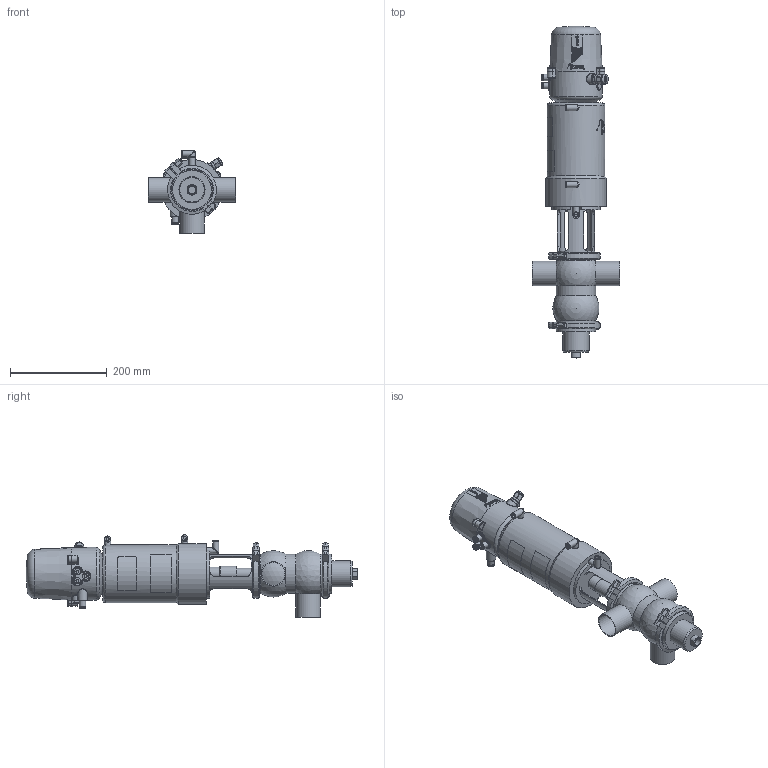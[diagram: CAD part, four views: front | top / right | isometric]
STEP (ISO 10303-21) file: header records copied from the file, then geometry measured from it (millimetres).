
FILE_DESCRIPTION (( 'STEP AP214' ), '1' );
FILE_NAME ('INNOVA P AB-90 W OD 2 & C-TOP S_10.250.16.0011.STEP', '2024-08-09T12:27:48', ( '' ), ( '' ), 'SwSTEP 2.0', 'SolidWorks 2023', '' );
FILE_SCHEMA (( 'AUTOMOTIVE_DESIGN' ));
Length unit declared in the file: millimetre
Products named in the file (7): 10.250.15.0002_Type P T1; 10.250.15.0003_DN 2"; 10.251.15.0003_OD 2"; INNOVA P AB-90 W OD 2 & C-TOP S_10.250.16.0011; 10.240.15.0001_DN 050; 10.250.15.0001_OD 2"; 10.426.15.0001_C-TOP S - 3 EV
Assembly tree (7 placements, depth 2):
  INNOVA P AB-90 W OD 2 & C-TOP S_10.250.16.0011
    10.250.15.0001_OD 2"
    10.250.15.0002_Type P T1
    10.426.15.0001_C-TOP S - 3 EV
    10.251.15.0003_OD 2"
    10.240.15.0001_DN 050  x2
    10.250.15.0003_DN 2"
Bounding box: 180 x 686.5 x 171 mm (x, y, z)
Volume: 5237163.4 mm3; surface area: 406003 mm2
Topology: 7 solids, 7 shells, 1207 faces, 2907 edges, 1931 vertices
Faces by surface type: plane 414, cylinder 385, cone 203, bspline 163, torus 33, sphere 9
Full cylindrical faces by diameter (mm): 0.371 x17, 0.512 x16, 0.658 x16, 0.795 x16, 0.94 x15, 1.098 x15, 1.241 x13, 1.382 x13, 1.523 x11, 1.669 x10, 2.201 x1, 4.2 x2, 5 x1, 5.5 x2, 6 x4, 6.15 x3, 8 x5, 10 x1, 10.5 x3, 11 x4, 12.5 x9, 13 x6, 13.5 x2, 16 x1, 17 x3, 20 x2, 22 x2, 23 x1, 28 x1, 31.5 x1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
Entity records: 59143 total; most frequent: CARTESIAN_POINT 27701, ORIENTED_EDGE 4620, DIRECTION 3769, EDGE_CURVE 2310, VERTEX_POINT 1646, EDGE_LOOP 1628, AXIS2_PLACEMENT_3D 1551, FACE_OUTER_BOUND 1376
